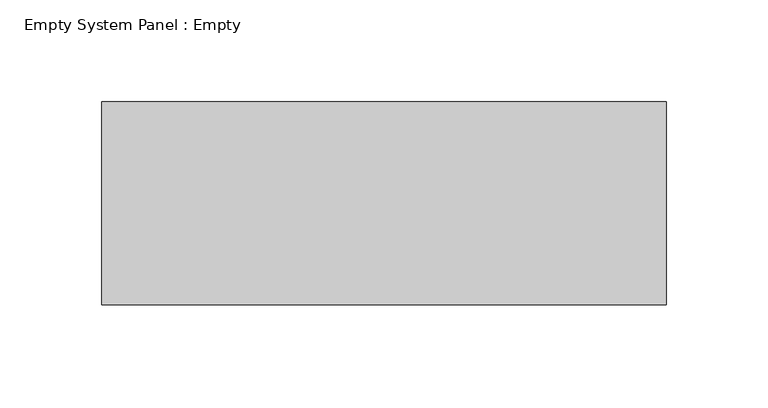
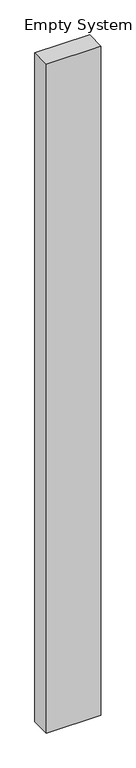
"""IFC4 building model written with IfcOpenShell, lengths in millimetres: plate geometry, Empty System Panel : Empty."""

from ifc_helpers import new_model, si_unit, origin, origin_with_axes, place, context, project, spatial, polyline, outline, extrude, source, transform, mapped, element, save


def empty_system_panel_empty_b48cce8b(model_context):
    return source(origin(), model_context, "Body", "SweptSolid", [
        extrude(outline(polyline([(139.0, -50.0), (-139.0, -50.0), (-139.0, 50.0), (139.0, 50.0), (139.0, -50.0)])), origin_with_axes(), (0.0, 0.0, 1.0), 3600.0),
    ])


if __name__ == "__main__":
    model = new_model("IFC4")
    model_context = context("Model", 3, world=origin())
    ifc_project = project(units=[si_unit("LENGTHUNIT", "METRE", prefix="MILLI")], contexts=[model_context])
    site = spatial("IfcSite", under=ifc_project)
    building = spatial("IfcBuilding", under=site)
    placement = place(None, origin())
    empty_system_panel_empty_shape = empty_system_panel_empty_b48cce8b(model_context)
    element("IfcPlate", 1, ObjectType="Empty System Panel : Empty", at=placement, inside=building, context=model_context, shape_type="MappedRepresentation", body=[
        mapped(empty_system_panel_empty_shape, transform((0.0, 0.0, 0.0), x_axis=(1.0, 0.0, 0.0), y_axis=(0.0, 1.0, 0.0), z_axis=(0.0, 0.0, 1.0))),
    ])
    save(model, "model.ifc")
